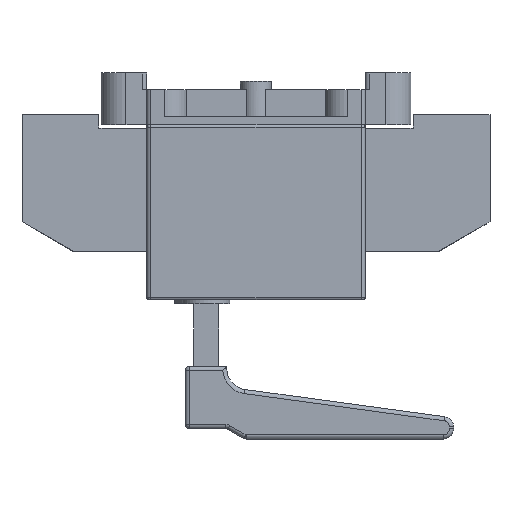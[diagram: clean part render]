
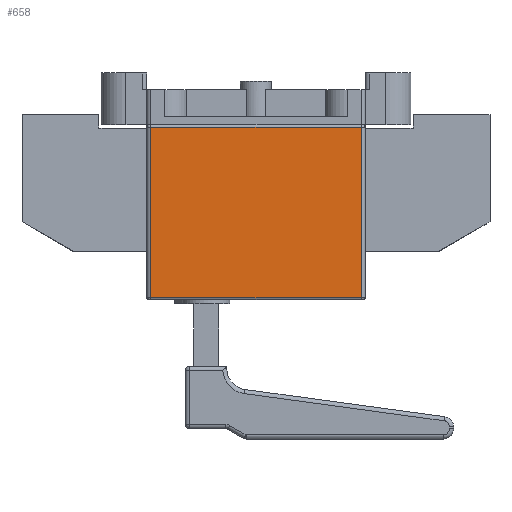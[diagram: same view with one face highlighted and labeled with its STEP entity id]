
A CAD part, left-side view. The second image highlights one B-rep face of the part: STEP entity #658.
In plain terms, the highlighted planar face has unit normal (-1, 0, 0).
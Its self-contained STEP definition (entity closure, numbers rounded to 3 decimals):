
#239=FACE_OUTER_BOUND('',#1625,.T.);
#658=ADVANCED_FACE('',(#239),#1085,.F.);
#1085=PLANE('',#8861);
#1625=EDGE_LOOP('',(#4452,#4453,#4454,#4455));
#2307=LINE('',#12562,#3244);
#2308=LINE('',#12568,#3245);
#2309=LINE('',#12571,#3246);
#2310=LINE('',#12572,#3247);
#3244=VECTOR('',#10019,1.);
#3245=VECTOR('',#10026,1.);
#3246=VECTOR('',#10027,1.);
#3247=VECTOR('',#10028,1.);
#4452=ORIENTED_EDGE('',*,*,#7527,.T.);
#4453=ORIENTED_EDGE('',*,*,#7528,.T.);
#4454=ORIENTED_EDGE('',*,*,#7524,.F.);
#4455=ORIENTED_EDGE('',*,*,#7529,.T.);
#6658=VERTEX_POINT('',#12563);
#6659=VERTEX_POINT('',#12564);
#6660=VERTEX_POINT('',#12569);
#6661=VERTEX_POINT('',#12570);
#7524=EDGE_CURVE('',#6658,#6659,#2307,.T.);
#7527=EDGE_CURVE('',#6660,#6661,#2308,.T.);
#7528=EDGE_CURVE('',#6661,#6659,#2309,.T.);
#7529=EDGE_CURVE('',#6658,#6660,#2310,.T.);
#8861=AXIS2_PLACEMENT_3D('',#12573,#10029,#10030);
#10019=DIRECTION('',(0.,0.,1.));
#10026=DIRECTION('',(0.,0.,1.));
#10027=DIRECTION('',(0.,1.,0.));
#10028=DIRECTION('',(0.,-1.,0.));
#10029=DIRECTION('',(1.,0.,0.));
#10030=DIRECTION('',(0.,1.,0.));
#12562=CARTESIAN_POINT('',(-197.5,50.5,-84.));
#12563=CARTESIAN_POINT('',(-197.5,50.5,-83.));
#12564=CARTESIAN_POINT('',(-197.5,50.5,-1.));
#12568=CARTESIAN_POINT('',(-197.5,-50.5,-84.));
#12569=CARTESIAN_POINT('',(-197.5,-50.5,-83.));
#12570=CARTESIAN_POINT('',(-197.5,-50.5,-1.));
#12571=CARTESIAN_POINT('',(-197.5,-50.5,-1.));
#12572=CARTESIAN_POINT('',(-197.5,-50.5,-83.));
#12573=CARTESIAN_POINT('',(-197.5,-50.5,-84.));
